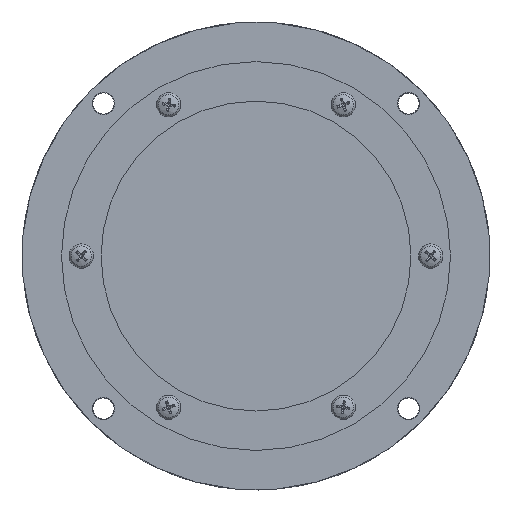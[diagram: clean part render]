
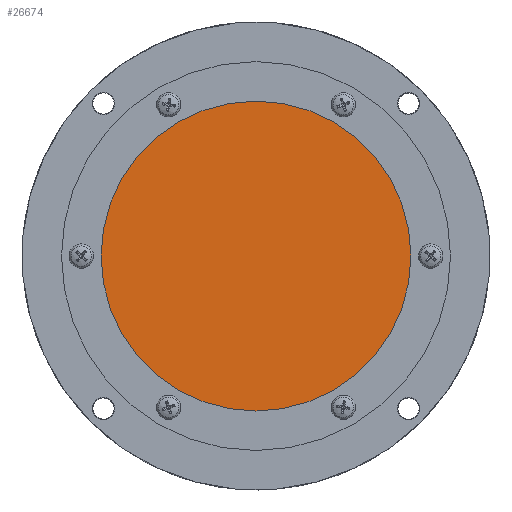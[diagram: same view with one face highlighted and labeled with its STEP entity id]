
A CAD part, front view. The second image highlights one B-rep face of the part: STEP entity #26674.
In plain terms, the highlighted planar face has unit normal (0, -1, 0).
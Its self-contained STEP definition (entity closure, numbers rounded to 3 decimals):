
#2026=PLANE('',#29251);
#3724=FACE_OUTER_BOUND('',#5350,.T.);
#5350=EDGE_LOOP('',(#22455));
#9536=CIRCLE('',#29252,51.);
#11837=VERTEX_POINT('',#66482);
#15460=EDGE_CURVE('',#11837,#11837,#9536,.T.);
#22455=ORIENTED_EDGE('',*,*,#15460,.T.);
#26674=ADVANCED_FACE('',(#3724),#2026,.T.);
#29251=AXIS2_PLACEMENT_3D('',#66481,#35469,#35470);
#29252=AXIS2_PLACEMENT_3D('',#66483,#35471,#35472);
#35469=DIRECTION('center_axis',(0.,-1.,0.));
#35470=DIRECTION('ref_axis',(0.866,0.,0.5));
#35471=DIRECTION('center_axis',(0.,-1.,0.));
#35472=DIRECTION('ref_axis',(0.,0.,
1.));
#66481=CARTESIAN_POINT('Origin',(0.,-58.1,
0.));
#66482=CARTESIAN_POINT('',(0.,-58.1,-51.));
#66483=CARTESIAN_POINT('Origin',(0.,-58.1,0.));
